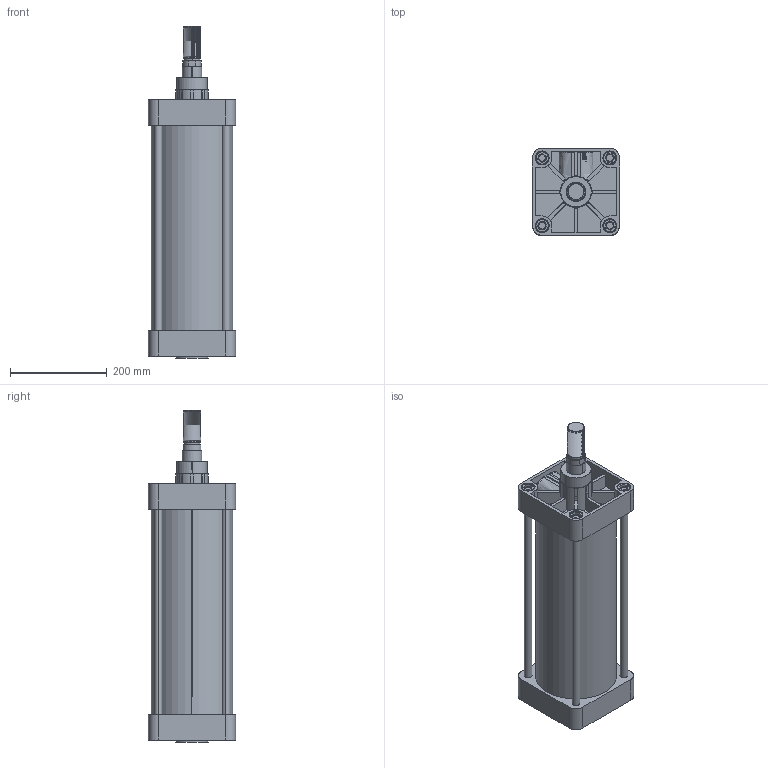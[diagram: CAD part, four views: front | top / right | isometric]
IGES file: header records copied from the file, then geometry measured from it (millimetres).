
Start section: SolidWorks IGES file using analytic representation for surfaces
Global section: file name: c:\CATALO3D\IGS\XJ160.0350.IGS; native system: SolidWorks 2005 by SolidWorks Corporation; preprocessor: SolidWorks 2005 by SolidWorks Corporation; author: tania; date: 051025.170540; units: millimetre
Bounding box: 180 x 180 x 686 mm (x, y, z)
Surface area: 1106568 mm2 (no closed solid volume)
Topology: 0 solids, 0 shells, 1483 faces, 23958 edges, 30358 vertices
Faces by surface type: revolution 1220, bspline 263
